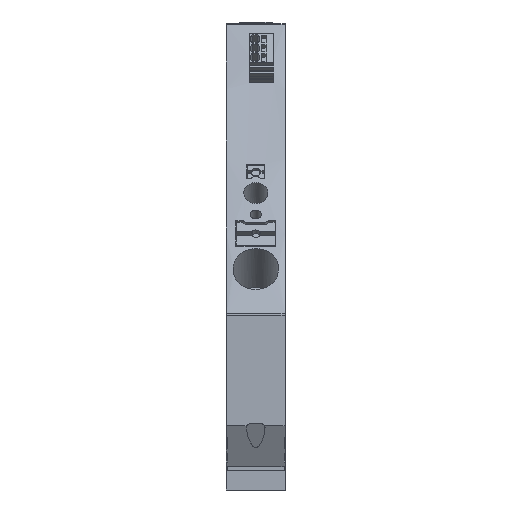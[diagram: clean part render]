
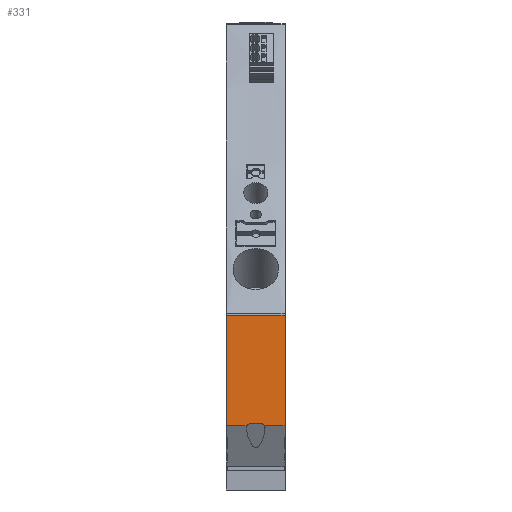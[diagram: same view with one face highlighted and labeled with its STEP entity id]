
A CAD part, front view. The second image highlights one B-rep face of the part: STEP entity #331.
In plain terms, the highlighted planar face has unit normal (0, -1, 0).
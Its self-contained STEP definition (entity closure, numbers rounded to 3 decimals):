
#331 = ADVANCED_FACE( '', ( #1420 ), #1421, .F. );
#1420 = FACE_OUTER_BOUND( '', #3103, .T. );
#1421 = PLANE( '', #3104 );
#3103 = EDGE_LOOP( '', ( #6552, #6553, #6554, #6555, #6556, #6557, #6558, #6559 ) );
#3104 = AXIS2_PLACEMENT_3D( '', #6560, #6561, #6562 );
#6552 = ORIENTED_EDGE( '', *, *, #12890, .T. );
#6553 = ORIENTED_EDGE( '', *, *, #12888, .F. );
#6554 = ORIENTED_EDGE( '', *, *, #11670, .T. );
#6555 = ORIENTED_EDGE( '', *, *, #12891, .T. );
#6556 = ORIENTED_EDGE( '', *, *, #12892, .T. );
#6557 = ORIENTED_EDGE( '', *, *, #12884, .F. );
#6558 = ORIENTED_EDGE( '', *, *, #12893, .F. );
#6559 = ORIENTED_EDGE( '', *, *, #12894, .T. );
#6560 = CARTESIAN_POINT( '', ( 6.15, -40., -12.262 ) );
#6561 = DIRECTION( '', ( 0., 1., 0. ) );
#6562 = DIRECTION( '', ( 0., 0., 1. ) );
#11670 = EDGE_CURVE( '', #14127, #14125, #14128, .T. );
#12884 = EDGE_CURVE( '', #16296, #16298, #16299, .T. );
#12888 = EDGE_CURVE( '', #14127, #16305, #16306, .T. );
#12890 = EDGE_CURVE( '', #16308, #16305, #16309, .T. );
#12891 = EDGE_CURVE( '', #14125, #16310, #16311, .T. );
#12892 = EDGE_CURVE( '', #16310, #16298, #16312, .T. );
#12893 = EDGE_CURVE( '', #16313, #16296, #16314, .T. );
#12894 = EDGE_CURVE( '', #16313, #16308, #16315, .T. );
#14125 = VERTEX_POINT( '', #18219 );
#14127 = VERTEX_POINT( '', #18222 );
#14128 = CIRCLE( '', #18223, 1. );
#16296 = VERTEX_POINT( '', #21558 );
#16298 = VERTEX_POINT( '', #21561 );
#16299 = LINE( '', #21562, #21563 );
#16305 = VERTEX_POINT( '', #21569 );
#16306 = LINE( '', #21570, #21571 );
#16308 = VERTEX_POINT( '', #21574 );
#16309 = LINE( '', #21575, #21576 );
#16310 = VERTEX_POINT( '', #21577 );
#16311 = LINE( '', #21578, #21579 );
#16312 = CIRCLE( '', #21580, 1. );
#16313 = VERTEX_POINT( '', #21581 );
#16314 = LINE( '', #21582, #21583 );
#16315 = LINE( '', #21584, #21585 );
#18219 = CARTESIAN_POINT( '', ( -0.95, -40., -34.975 ) );
#18222 = CARTESIAN_POINT( '', ( -1.83, -40., -35.5 ) );
#18223 = AXIS2_PLACEMENT_3D( '', #24517, #24518, #24519 );
#21558 = CARTESIAN_POINT( '', ( 6.15, -40., -35.5 ) );
#21561 = CARTESIAN_POINT( '', ( 1.83, -40., -35.5 ) );
#21562 = CARTESIAN_POINT( '', ( 6.15, -40., -35.5 ) );
#21563 = VECTOR( '', #25823, 1000. );
#21569 = CARTESIAN_POINT( '', ( -6.15, -40., -35.5 ) );
#21570 = CARTESIAN_POINT( '', ( 6.15, -40., -35.5 ) );
#21571 = VECTOR( '', #25833, 1000. );
#21574 = CARTESIAN_POINT( '', ( -6.15, -40., -12.262 ) );
#21575 = CARTESIAN_POINT( '', ( -6.15, -40., -12.262 ) );
#21576 = VECTOR( '', #25835, 1000. );
#21577 = CARTESIAN_POINT( '', ( 0.95, -40., -34.975 ) );
#21578 = CARTESIAN_POINT( '', ( -0.95, -40., -34.975 ) );
#21579 = VECTOR( '', #25836, 1000. );
#21580 = AXIS2_PLACEMENT_3D( '', #25837, #25838, #25839 );
#21581 = CARTESIAN_POINT( '', ( 6.15, -40., -12.262 ) );
#21582 = CARTESIAN_POINT( '', ( 6.15, -40., -12.262 ) );
#21583 = VECTOR( '', #25840, 1000. );
#21584 = CARTESIAN_POINT( '', ( 6.15, -40., -12.262 ) );
#21585 = VECTOR( '', #25841, 1000. );
#24517 = CARTESIAN_POINT( '', ( -0.95, -40., -35.975 ) );
#24518 = DIRECTION( '', ( 0., 1., 0. ) );
#24519 = DIRECTION( '', ( 1., 0., 0. ) );
#25823 = DIRECTION( '', ( -1., 0., 0. ) );
#25833 = DIRECTION( '', ( -1., 0., 0. ) );
#25835 = DIRECTION( '', ( 0., 0., -1. ) );
#25836 = DIRECTION( '', ( 1., 0., 0. ) );
#25837 = CARTESIAN_POINT( '', ( 0.95, -40., -35.975 ) );
#25838 = DIRECTION( '', ( 0., 1., 0. ) );
#25839 = DIRECTION( '', ( 1., 0., 0. ) );
#25840 = DIRECTION( '', ( 0., 0., -1. ) );
#25841 = DIRECTION( '', ( -1., 0., 0. ) );
